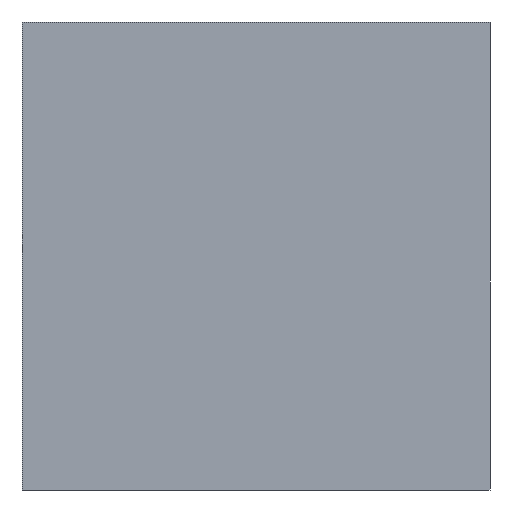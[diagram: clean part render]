
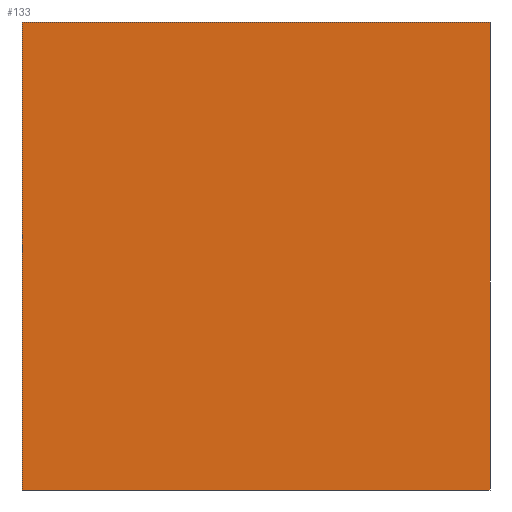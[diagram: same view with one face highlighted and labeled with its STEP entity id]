
A CAD part, front view. The second image highlights one B-rep face of the part: STEP entity #133.
In plain terms, the highlighted planar face has unit normal (0, -1, 0).
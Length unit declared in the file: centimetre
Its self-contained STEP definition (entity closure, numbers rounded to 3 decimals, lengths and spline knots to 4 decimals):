
#96 = CARTESIAN_POINT ( 'NONE',  ( 1000., 0., 1000. ) ) ;
#116 = VECTOR ( 'NONE', #520, 100. ) ;
#130 = VECTOR ( 'NONE', #866, 100. ) ;
#133 = ADVANCED_FACE ( 'NONE', ( #948 ), #690, .F. ) ;
#168 = ORIENTED_EDGE ( 'NONE', *, *, #459, .T. ) ;
#195 = CARTESIAN_POINT ( 'NONE',  ( 1000., 0., 0. ) ) ;
#262 = ORIENTED_EDGE ( 'NONE', *, *, #1328, .F. ) ;
#322 = CARTESIAN_POINT ( 'NONE',  ( 0., 0., 0. ) ) ;
#392 = DIRECTION ( 'NONE',  ( 0., 1., 0. ) ) ;
#420 = LINE ( 'NONE', #757, #130 ) ;
#459 = EDGE_CURVE ( 'NONE', #1287, #1150, #682, .T. ) ;
#476 = VERTEX_POINT ( 'NONE', #578 ) ;
#492 = CARTESIAN_POINT ( 'NONE',  ( 0., 0., 1000. ) ) ;
#514 = VECTOR ( 'NONE', #797, 100. ) ;
#520 = DIRECTION ( 'NONE',  ( 0., 0., -1. ) ) ;
#530 = VERTEX_POINT ( 'NONE', #789 ) ;
#565 = CARTESIAN_POINT ( 'NONE',  ( 0., 0., 0. ) ) ;
#578 = CARTESIAN_POINT ( 'NONE',  ( 1000., 0., 1000. ) ) ;
#682 = LINE ( 'NONE', #565, #514 ) ;
#690 = PLANE ( 'NONE',  #964 ) ;
#700 = EDGE_LOOP ( 'NONE', ( #168, #984, #262, #1071 ) ) ;
#757 = CARTESIAN_POINT ( 'NONE',  ( 0., 0., 1000. ) ) ;
#789 = CARTESIAN_POINT ( 'NONE',  ( 0., 0., 1000. ) ) ;
#797 = DIRECTION ( 'NONE',  ( 1., 0., 0. ) ) ;
#841 = DIRECTION ( 'NONE',  ( 0., 0., 1. ) ) ;
#866 = DIRECTION ( 'NONE',  ( 1., 0., 0. ) ) ;
#948 = FACE_OUTER_BOUND ( 'NONE', #700, .T. ) ;
#964 = AXIS2_PLACEMENT_3D ( 'NONE', #1373, #392, #841 ) ;
#984 = ORIENTED_EDGE ( 'NONE', *, *, #1242, .F. ) ;
#1040 = DIRECTION ( 'NONE',  ( 0., 0., -1. ) ) ;
#1049 = LINE ( 'NONE', #96, #116 ) ;
#1071 = ORIENTED_EDGE ( 'NONE', *, *, #1244, .T. ) ;
#1081 = VECTOR ( 'NONE', #1040, 100. ) ;
#1150 = VERTEX_POINT ( 'NONE', #195 ) ;
#1242 = EDGE_CURVE ( 'NONE', #476, #1150, #1049, .T. ) ;
#1244 = EDGE_CURVE ( 'NONE', #530, #1287, #1258, .T. ) ;
#1258 = LINE ( 'NONE', #492, #1081 ) ;
#1287 = VERTEX_POINT ( 'NONE', #322 ) ;
#1328 = EDGE_CURVE ( 'NONE', #530, #476, #420, .T. ) ;
#1373 = CARTESIAN_POINT ( 'NONE',  ( 0., 0., 1000. ) ) ;
